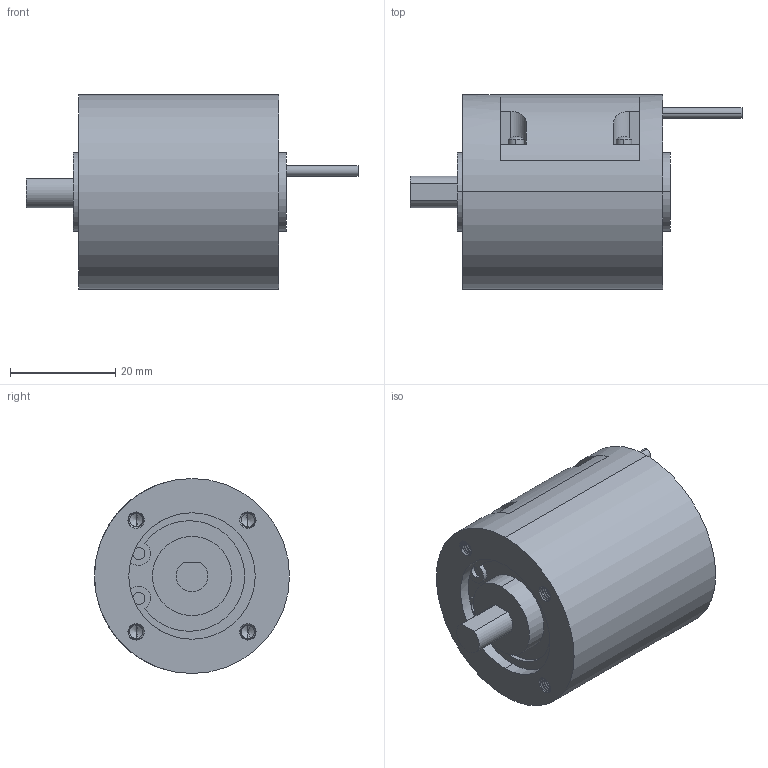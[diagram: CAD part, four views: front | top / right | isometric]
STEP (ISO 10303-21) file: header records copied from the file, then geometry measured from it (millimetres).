
FILE_DESCRIPTION (( 'STEP AP203' ), '1' );
FILE_NAME ('RTS04.STEP', '2024-10-08T09:36:00', ( '' ), ( '' ), 'SwSTEP 2.0', 'SolidWorks 2019', '' );
FILE_SCHEMA (( 'CONFIG_CONTROL_DESIGN' ));
Length unit declared in the file: millimetre
Products named in the file (1): RTS04
Bounding box: 63 x 37 x 37 mm (x, y, z)
Volume: 39783.5 mm3; surface area: 11335.2 mm2
Topology: 7 solids, 7 shells, 266 faces, 698 edges, 442 vertices
Faces by surface type: cylinder 153, plane 49, cone 36, bspline 24, sphere 4
Entity records: 21783 total; most frequent: CARTESIAN_POINT 16043, ORIENTED_EDGE 1340, DIRECTION 1036, EDGE_CURVE 670, VERTEX_POINT 434, AXIS2_PLACEMENT_3D 391, EDGE_LOOP 282, ADVANCED_FACE 266
